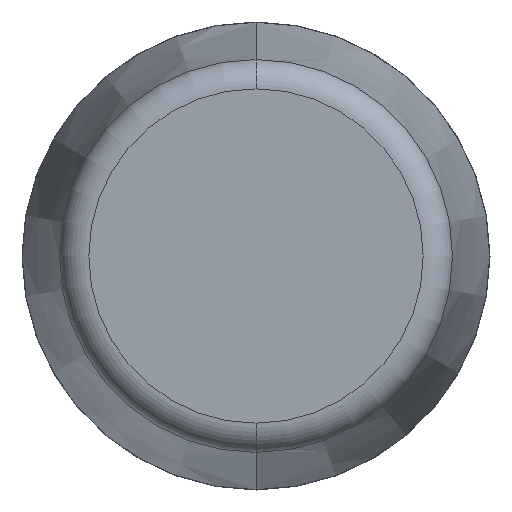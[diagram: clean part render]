
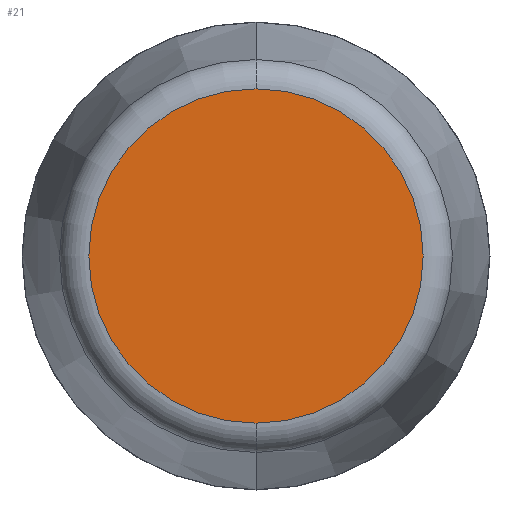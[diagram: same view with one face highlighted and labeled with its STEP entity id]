
A CAD part, front view. The second image highlights one B-rep face of the part: STEP entity #21.
In plain terms, the highlighted planar face has unit normal (0, -1, 0).
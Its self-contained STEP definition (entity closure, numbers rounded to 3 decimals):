
#21 = ADVANCED_FACE ( 'NONE', ( #928 ), #1133, .T. ) ;
#52 = DIRECTION ( 'NONE',  ( 0., -1., 0. ) ) ;
#82 = AXIS2_PLACEMENT_3D ( 'NONE', #1128, #165, #365 ) ;
#156 = DIRECTION ( 'NONE',  ( 0., -1., 0. ) ) ;
#165 = DIRECTION ( 'NONE',  ( 0., -1., 0. ) ) ;
#276 = ORIENTED_EDGE ( 'NONE', *, *, #1075, .T. ) ;
#297 = EDGE_CURVE ( 'NONE', #1167, #614, #1239, .T. ) ;
#365 = DIRECTION ( 'NONE',  ( 0., 0., -1. ) ) ;
#439 = AXIS2_PLACEMENT_3D ( 'NONE', #929, #156, #552 ) ;
#552 = DIRECTION ( 'NONE',  ( 0., 0., -1. ) ) ;
#576 = EDGE_LOOP ( 'NONE', ( #806, #276 ) ) ;
#596 = CARTESIAN_POINT ( 'NONE',  ( 0., 0., -5.639 ) ) ;
#614 = VERTEX_POINT ( 'NONE', #1182 ) ;
#644 = DIRECTION ( 'NONE',  ( 0., 0., -1. ) ) ;
#669 = AXIS2_PLACEMENT_3D ( 'NONE', #726, #52, #644 ) ;
#726 = CARTESIAN_POINT ( 'NONE',  ( 0., 0., 0. ) ) ;
#806 = ORIENTED_EDGE ( 'NONE', *, *, #297, .T. ) ;
#928 = FACE_OUTER_BOUND ( 'NONE', #576, .T. ) ;
#929 = CARTESIAN_POINT ( 'NONE',  ( 0., 0., 0. ) ) ;
#987 = CIRCLE ( 'NONE', #439, 5.639 ) ;
#1075 = EDGE_CURVE ( 'NONE', #614, #1167, #987, .T. ) ;
#1128 = CARTESIAN_POINT ( 'NONE',  ( 6.5, 0., 0. ) ) ;
#1133 = PLANE ( 'NONE',  #82 ) ;
#1167 = VERTEX_POINT ( 'NONE', #596 ) ;
#1182 = CARTESIAN_POINT ( 'NONE',  ( 0., 0., 5.639 ) ) ;
#1239 = CIRCLE ( 'NONE', #669, 5.639 ) ;
